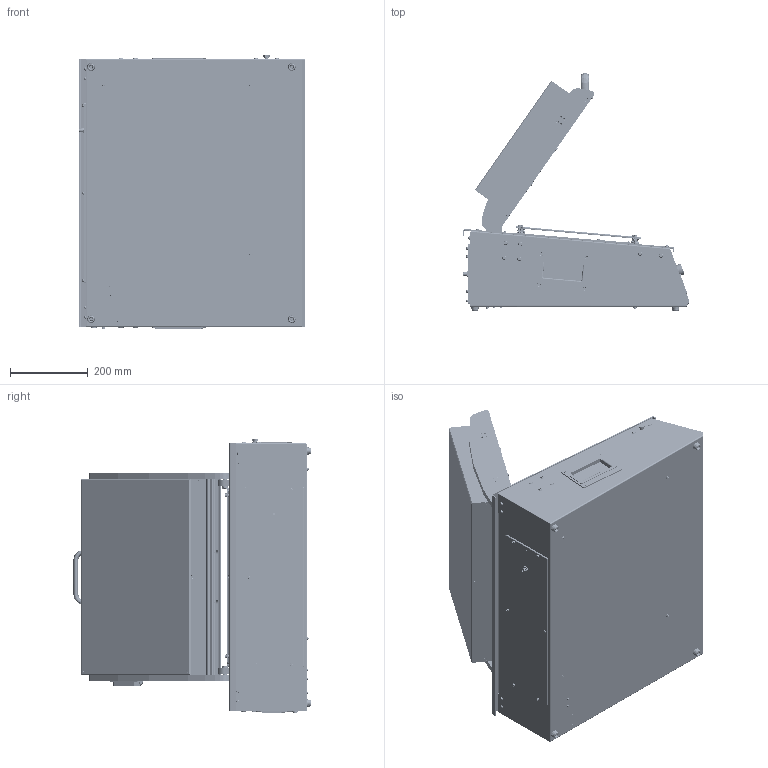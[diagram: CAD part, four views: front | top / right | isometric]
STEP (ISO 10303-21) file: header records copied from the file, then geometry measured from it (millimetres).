
FILE_DESCRIPTION (( 'STEP AP214' ), '1' );
FILE_NAME ('ARF-UPe-P-NSHA3 - Ouvert.STEP', '2026-10-09T15:08:02', ( '' ), ( '' ), 'SwSTEP 2.0', 'SolidWorks 2015', '' );
FILE_SCHEMA (( 'AUTOMOTIVE_DESIGN' ));
Length unit declared in the file: millimetre
Products named in the file (144): TCBL TORX M4X10; 8122_142; chc_06x16; F Torx 05x10; 8122_307; 8122_114; 8122_309; az_03; 8007_042; 8122_144; 8122_111; gd4x20; 8122_306; RL_4; 8122_033 - STEP; 8007_043_; 8122_161; RM_6; ehmf_4x25; ASR_T030180172L; 8122_108 - STEP; C8525-60_ROD; KQ2E06-00NJ; 048_2000_114_07; 8122_300; 143004_10; M04 Hu; 54-1-3029_01; 8122_126; 8122_359; CIR_EXT_D5.6; CIR_EXT_D8; KQ2U06800A; 8122_112_version C; C85N25-60; 8122_077; RIVET 3 COURT; 6001-zz; chc_04x14; chc_02,5x20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
Assembly tree (438 placements, depth 5):
  ARF-UPe-P-NSHA3 - Ouvert
    8122_031
      8122_300
        8122_300
        eac_m4  x24
        eac_m5  x4
      54-1-3029_01  x2
      8122_007_Version C
        8122_112_version C
        8122_113_version C
        Tête moltée M5
        ASR_T030180172L
        M05 Hu
        F Torx 04x14  x2
        chc_05x40
        Rd Cuv pleine M4  x2
        el_d5x5
        gd5x20
        gd4x20
      048_2000_114_07  x4
      poignée pliable  x2
      8122_162  x2
      8131_110 (PlaqueID)
      8122_161  x2
      chc_02,5x20  x2
      M02.5 h  x2
      F Torx 05x10  x4
      M03 Hu
      F Torx 03x12
      az_03
      Rd Cuv pleine M4  x8
      F Torx 04x18  x8
      F Torx 04x08  x8
      RM_4  x2
      TCBL TORX M4X10  x2
      RIVET 3 COURT  x4
      CIR_EXT_D5.6  x2
      chc_04x08  x4
      8007_042
        8007_070
          8007_700
          22-27-2021  x2
          22-27-2031
        ehff_3x10  x2
        chc_03x06  x4
      8007_043_
        SY5120_5LZD_01
        AN110_01  x2
        KQ2L06-01NS  x3
      pression ESD
      AS1002F-06A  x2
      230-6322
      KQ2U06800A  x2
    8122_032 - STEP_OUVERT
      8122_033 - STEP
        8122_307
          8122_307
          eac_m5  x4
          eac_m4  x6
        8122_130  x2
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Bounding box: 582.48 x 610.27 x 703 mm (x, y, z)
Volume: 11253388.8 mm3; surface area: 5321571 mm2
Topology: 431 solids, 585 shells, 14114 faces, 35410 edges, 22876 vertices
Faces by surface type: cylinder 6362, plane 5011, cone 1948, torus 456, bspline 317, sphere 20
Entity records: 232282 total; most frequent: CARTESIAN_POINT 57576, DIRECTION 33459, ORIENTED_EDGE 31153, EDGE_CURVE 15813, AXIS2_PLACEMENT_3D 12406, VERTEX_POINT 10369, VECTOR 8647, LINE 8647
